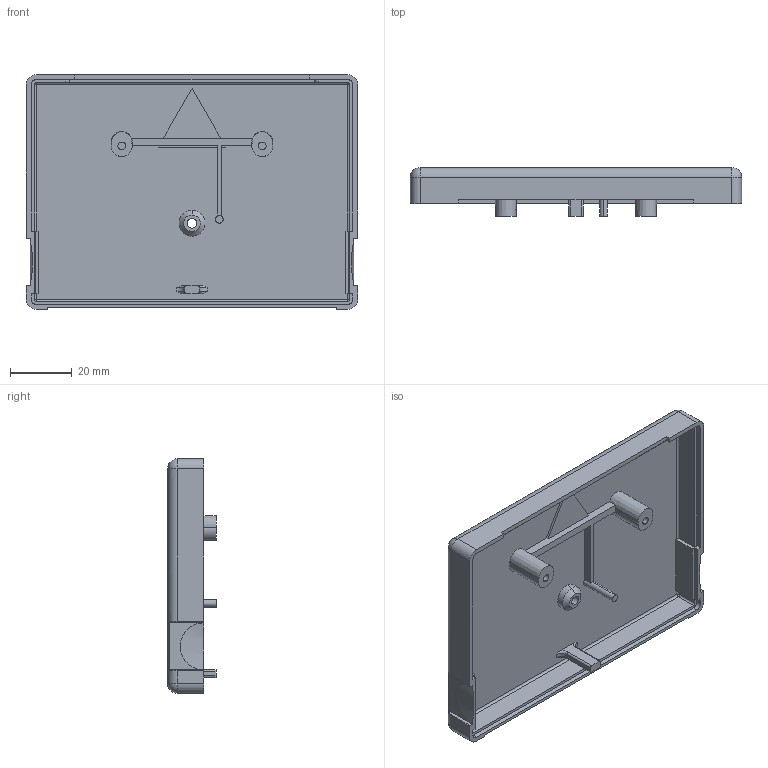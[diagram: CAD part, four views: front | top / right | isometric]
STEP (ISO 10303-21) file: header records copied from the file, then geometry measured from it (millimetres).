
FILE_DESCRIPTION (( 'STEP AP214' ), '1' );
FILE_NAME ('cartBasetopXPv2mod.STEP', '2021-11-22T16:38:52', ( '' ), ( '' ), 'SwSTEP 2.0', 'SolidWorks 2010', '' );
FILE_SCHEMA (( 'AUTOMOTIVE_DESIGN' ));
Length unit declared in the file: inch
Products named in the file (1): cartBasetopXPv2mod
Bounding box: 107.7 x 15.88 x 76.2 mm (x, y, z)
Volume: 26465.5 mm3; surface area: 24699 mm2
Topology: 1 solids, 1 shells, 164 faces, 435 edges, 271 vertices
Faces by surface type: plane 88, cylinder 46, cone 12, sphere 10, bspline 4, torus 4
Entity records: 5441 total; most frequent: CARTESIAN_POINT 1367, ORIENTED_EDGE 854, DIRECTION 839, EDGE_CURVE 427, AXIS2_PLACEMENT_3D 283, VECTOR 273, LINE 273, VERTEX_POINT 271
